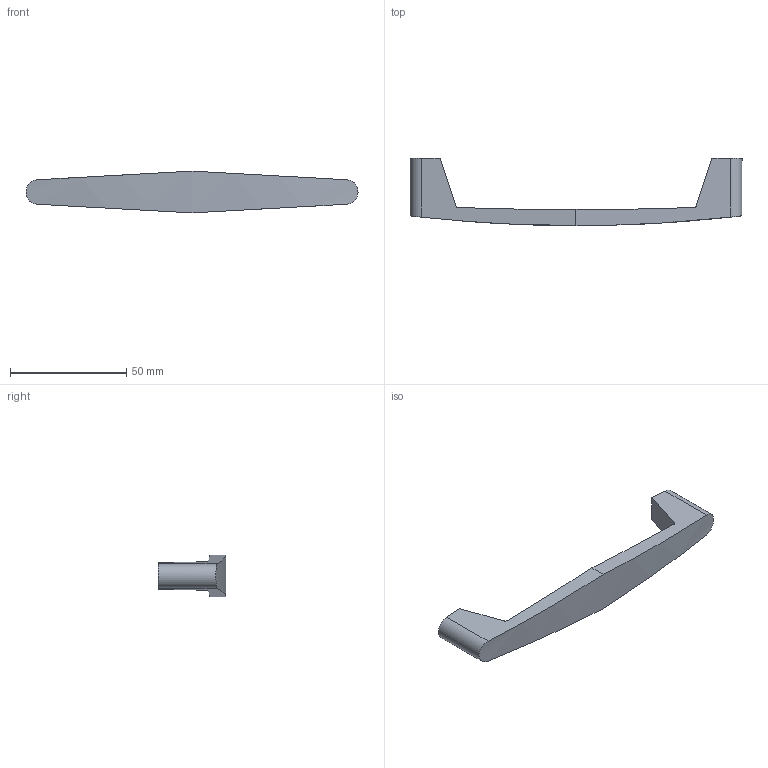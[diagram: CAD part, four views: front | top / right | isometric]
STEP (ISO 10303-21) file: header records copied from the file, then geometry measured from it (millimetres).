
FILE_DESCRIPTION( ( '' ), '1' );
FILE_NAME( 'C:/Documents and Settings/Sachin/Desktop/Sheet 10_1/stp/9070678.stp', '2013-10-22T11:31:13', ( '' ), ( '' ), ' ', ' ', ' ' );
FILE_SCHEMA( ( 'CONFIG_CONTROL_DESIGN' ) );
Length unit declared in the file: millimetre
Products named in the file (1): 1
Bounding box: 143 x 29 x 18 mm (x, y, z)
Volume: 19136.7 mm3; surface area: 7923.4 mm2
Topology: 1 solids, 1 shells, 20 faces, 50 edges, 34 vertices
Faces by surface type: cylinder 10, plane 10
Entity records: 716 total; most frequent: CARTESIAN_POINT 173, DIRECTION 110, ORIENTED_EDGE 100, EDGE_CURVE 50, AXIS2_PLACEMENT_3D 43, VERTEX_POINT 34, LINE 24, VECTOR 24
